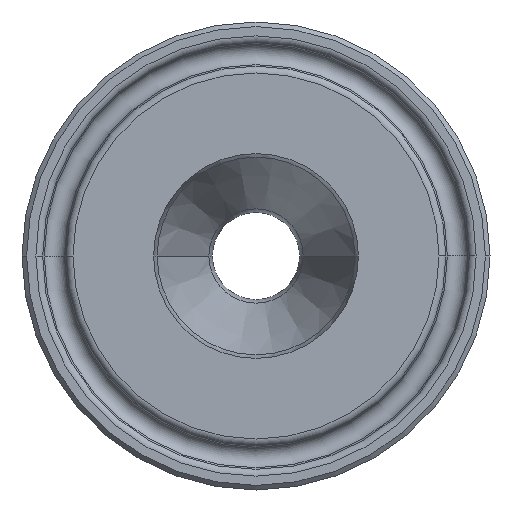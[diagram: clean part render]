
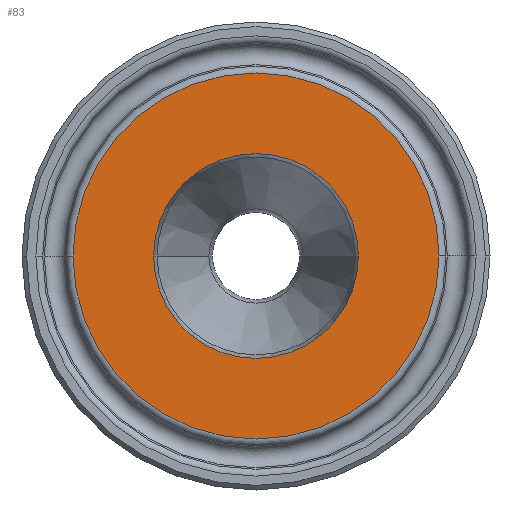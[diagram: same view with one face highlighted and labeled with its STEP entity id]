
A CAD part, left-side view. The second image highlights one B-rep face of the part: STEP entity #83.
In plain terms, the highlighted planar face has unit normal (-1, 0, 0).
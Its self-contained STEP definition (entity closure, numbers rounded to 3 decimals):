
#36 = CIRCLE ( 'NONE', #275, 11.05 ) ;
#51 = AXIS2_PLACEMENT_3D ( 'NONE', #878, #780, #536 ) ;
#81 = DIRECTION ( 'NONE',  ( 0., 1., 0. ) ) ;
#83 = ADVANCED_FACE ( 'NONE', ( #340, #251 ), #861, .T. ) ;
#113 = VERTEX_POINT ( 'NONE', #1002 ) ;
#166 = CIRCLE ( 'NONE', #699, 11.05 ) ;
#170 = VERTEX_POINT ( 'NONE', #928 ) ;
#176 = EDGE_CURVE ( 'NONE', #113, #170, #36, .T. ) ;
#251 = FACE_OUTER_BOUND ( 'NONE', #964, .T. ) ;
#262 = DIRECTION ( 'NONE',  ( -1., 0., 0. ) ) ;
#275 = AXIS2_PLACEMENT_3D ( 'NONE', #690, #434, #81 ) ;
#327 = DIRECTION ( 'NONE',  ( 0., -1., 0. ) ) ;
#340 = FACE_BOUND ( 'NONE', #703, .T. ) ;
#349 = ORIENTED_EDGE ( 'NONE', *, *, #351, .F. ) ;
#351 = EDGE_CURVE ( 'NONE', #486, #475, #1041, .T. ) ;
#370 = DIRECTION ( 'NONE',  ( 0., 1., 0. ) ) ;
#434 = DIRECTION ( 'NONE',  ( 1., 0., 0. ) ) ;
#475 = VERTEX_POINT ( 'NONE', #907 ) ;
#485 = DIRECTION ( 'NONE',  ( 1., 0., 0. ) ) ;
#486 = VERTEX_POINT ( 'NONE', #552 ) ;
#536 = DIRECTION ( 'NONE',  ( 0., 1., 0. ) ) ;
#552 = CARTESIAN_POINT ( 'NONE',  ( -76.2, -19.747, 0. ) ) ;
#578 = ORIENTED_EDGE ( 'NONE', *, *, #862, .T. ) ;
#663 = ORIENTED_EDGE ( 'NONE', *, *, #914, .F. ) ;
#690 = CARTESIAN_POINT ( 'NONE',  ( -76.2, 0., 0. ) ) ;
#699 = AXIS2_PLACEMENT_3D ( 'NONE', #965, #485, #725 ) ;
#703 = EDGE_LOOP ( 'NONE', ( #578, #831 ) ) ;
#725 = DIRECTION ( 'NONE',  ( 0., 1., 0. ) ) ;
#780 = DIRECTION ( 'NONE',  ( 1., 0., 0. ) ) ;
#811 = CARTESIAN_POINT ( 'NONE',  ( -76.2, 0., 0. ) ) ;
#826 = CIRCLE ( 'NONE', #982, 19.747 ) ;
#831 = ORIENTED_EDGE ( 'NONE', *, *, #176, .T. ) ;
#861 = PLANE ( 'NONE',  #1034 ) ;
#862 = EDGE_CURVE ( 'NONE', #170, #113, #166, .T. ) ;
#878 = CARTESIAN_POINT ( 'NONE',  ( -76.2, 0., 0. ) ) ;
#907 = CARTESIAN_POINT ( 'NONE',  ( -76.2, 19.747, 0. ) ) ;
#914 = EDGE_CURVE ( 'NONE', #475, #486, #826, .T. ) ;
#919 = CARTESIAN_POINT ( 'NONE',  ( -76.2, 19.747, 0. ) ) ;
#928 = CARTESIAN_POINT ( 'NONE',  ( -76.2, 11.05, 0. ) ) ;
#964 = EDGE_LOOP ( 'NONE', ( #663, #349 ) ) ;
#965 = CARTESIAN_POINT ( 'NONE',  ( -76.2, 0., 0. ) ) ;
#982 = AXIS2_PLACEMENT_3D ( 'NONE', #811, #985, #370 ) ;
#985 = DIRECTION ( 'NONE',  ( 1., 0., 0. ) ) ;
#1002 = CARTESIAN_POINT ( 'NONE',  ( -76.2, -11.05, 0. ) ) ;
#1034 = AXIS2_PLACEMENT_3D ( 'NONE', #919, #262, #327 ) ;
#1041 = CIRCLE ( 'NONE', #51, 19.747 ) ;
